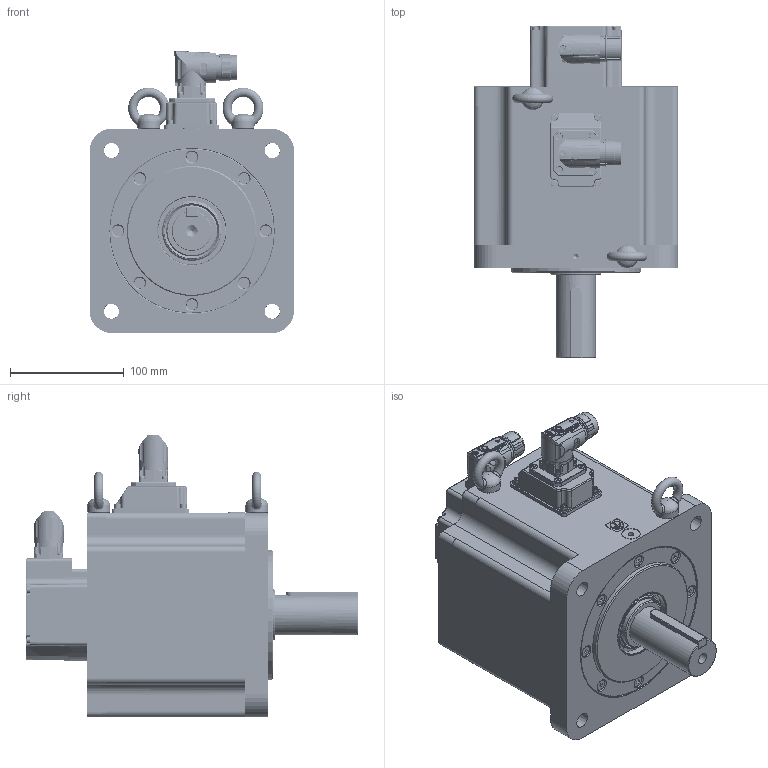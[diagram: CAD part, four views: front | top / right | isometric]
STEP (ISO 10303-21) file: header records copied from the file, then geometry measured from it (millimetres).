
FILE_DESCRIPTION( ( 'Unknown' ), '1' );
FILE_NAME( 'U:/05_Progetto TCE/010-TCE motor drawings/TCE180/vuoti/TCE180 6B XX 3 A1 0 C2.stp', 'Unknown', ( 'Unknown' ), ( 'Unknown' ), 'PSStep 17.0.49', 'Unknown', ' ' );
FILE_SCHEMA( ( 'AUTOMOTIVE_DESIGN { 1 0 10303 214 1 1 1 1 }' ) );
Length unit declared in the file: millimetre
Products named in the file (15): 1; 2; 3; 4; 5; 6; 7; 8; 9; 10; 11; 12; 13; 14; 005204000001
Bounding box: 180.3 x 292 x 248.5 mm (x, y, z)
Volume: 2663033.1 mm3; surface area: 534905.3 mm2
Topology: 15 solids, 110 shells, 3269 faces, 8146 edges, 5263 vertices
Faces by surface type: plane 1549, cylinder 748, cone 363, bspline 274, torus 202, sphere 93, extrusion 38, revolution 2
Full cylindrical faces by diameter (mm): 0.5 x1, 1 x21, 1.2 x17, 1.4 x4, 2 x4, 2.013 x4, 2.2 x2, 2.459 x23, 2.5 x8, 2.6 x4, 2.8 x4, 3 x29, 3.2 x1, 3.242 x6, 3.5 x8, 4 x9, 4.134 x24, 4.4 x12, 4.5 x6, 4.7 x4, 4.917 x2, 5 x4, 5.5 x12, 5.8 x1, 5.9 x2, 6.647 x22, 6.8 x1, 7 x4, 8 x8, 8.5 x4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
Entity records: 143002 total; most frequent: CARTESIAN_POINT 47486, DIRECTION 14351, ORIENTED_EDGE 13852, EDGE_CURVE 6926, AXIS2_PLACEMENT_3D 5453, VERTEX_POINT 4929, EDGE_LOOP 4368, FACE_OUTER_BOUND 3771
